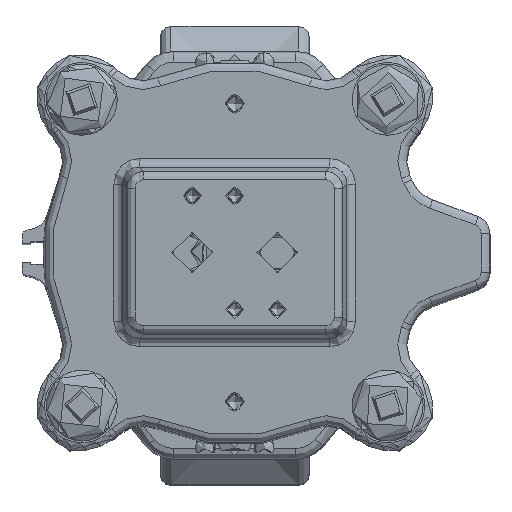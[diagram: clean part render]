
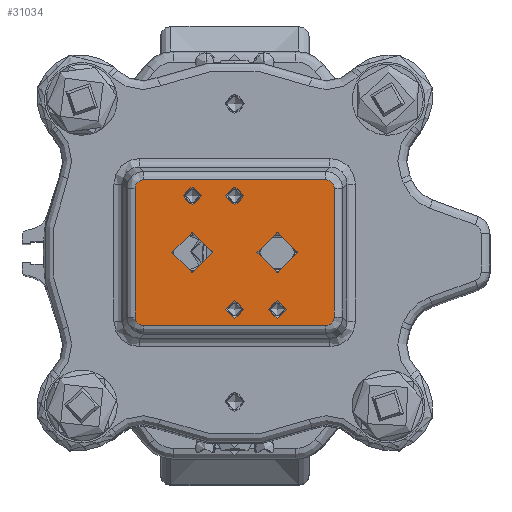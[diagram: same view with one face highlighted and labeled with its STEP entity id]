
A CAD part, top view. The second image highlights one B-rep face of the part: STEP entity #31034.
In plain terms, the highlighted planar face has unit normal (0, 0, 1) by its records, which use the part's own axes.
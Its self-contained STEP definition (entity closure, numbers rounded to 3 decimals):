
#2005=ELLIPSE('',#33929,2.673,2.5);
#2006=ELLIPSE('',#33930,2.673,2.5);
#2007=ELLIPSE('',#33931,2.673,2.5);
#2008=ELLIPSE('',#33932,2.673,2.5);
#2900=FACE_BOUND('',#6243,.T.);
#2901=FACE_BOUND('',#6244,.T.);
#2902=FACE_BOUND('',#6245,.T.);
#2903=FACE_BOUND('',#6246,.T.);
#2904=FACE_BOUND('',#6247,.T.);
#2905=FACE_BOUND('',#6248,.T.);
#3953=FACE_OUTER_BOUND('',#6242,.T.);
#6242=EDGE_LOOP('',(#23579,#23580,#23581,#23582,#23583,#23584,#23585,#23586));
#6243=EDGE_LOOP('',(#23587));
#6244=EDGE_LOOP('',(#23588));
#6245=EDGE_LOOP('',(#23589));
#6246=EDGE_LOOP('',(#23590));
#6247=EDGE_LOOP('',(#23591));
#6248=EDGE_LOOP('',(#23592));
#8596=CIRCLE('',#33801,5.723);
#8598=CIRCLE('',#33804,5.723);
#8688=CIRCLE('',#33927,2.5);
#8689=CIRCLE('',#33933,2.5);
#8690=CIRCLE('',#33934,2.5);
#8691=CIRCLE('',#33935,2.5);
#10583=LINE('',#50429,#12108);
#10584=LINE('',#50433,#12109);
#10585=LINE('',#50437,#12110);
#10586=LINE('',#50440,#12111);
#12108=VECTOR('',#39895,10.);
#12109=VECTOR('',#39898,10.);
#12110=VECTOR('',#39901,10.);
#12111=VECTOR('',#39904,10.);
#14042=VERTEX_POINT('',#49873);
#14043=VERTEX_POINT('',#49877);
#14143=VERTEX_POINT('',#50422);
#14144=VERTEX_POINT('',#50425);
#14145=VERTEX_POINT('',#50426);
#14146=VERTEX_POINT('',#50428);
#14147=VERTEX_POINT('',#50430);
#14148=VERTEX_POINT('',#50432);
#14149=VERTEX_POINT('',#50434);
#14150=VERTEX_POINT('',#50436);
#14151=VERTEX_POINT('',#50438);
#14152=VERTEX_POINT('',#50441);
#14153=VERTEX_POINT('',#50443);
#14154=VERTEX_POINT('',#50445);
#17424=EDGE_CURVE('',#14042,#14042,#8596,.T.);
#17426=EDGE_CURVE('',#14043,#14043,#8598,.T.);
#17556=EDGE_CURVE('',#14143,#14143,#8688,.T.);
#17557=EDGE_CURVE('',#14144,#14145,#2005,.T.);
#17558=EDGE_CURVE('',#14146,#14144,#10583,.T.);
#17559=EDGE_CURVE('',#14147,#14146,#2006,.T.);
#17560=EDGE_CURVE('',#14148,#14147,#10584,.T.);
#17561=EDGE_CURVE('',#14149,#14148,#2007,.T.);
#17562=EDGE_CURVE('',#14150,#14149,#10585,.T.);
#17563=EDGE_CURVE('',#14151,#14150,#2008,.T.);
#17564=EDGE_CURVE('',#14145,#14151,#10586,.T.);
#17565=EDGE_CURVE('',#14152,#14152,#8689,.T.);
#17566=EDGE_CURVE('',#14153,#14153,#8690,.T.);
#17567=EDGE_CURVE('',#14154,#14154,#8691,.T.);
#23579=ORIENTED_EDGE('',*,*,#17557,.F.);
#23580=ORIENTED_EDGE('',*,*,#17558,.F.);
#23581=ORIENTED_EDGE('',*,*,#17559,.F.);
#23582=ORIENTED_EDGE('',*,*,#17560,.F.);
#23583=ORIENTED_EDGE('',*,*,#17561,.F.);
#23584=ORIENTED_EDGE('',*,*,#17562,.F.);
#23585=ORIENTED_EDGE('',*,*,#17563,.F.);
#23586=ORIENTED_EDGE('',*,*,#17564,.F.);
#23587=ORIENTED_EDGE('',*,*,#17424,.T.);
#23588=ORIENTED_EDGE('',*,*,#17426,.T.);
#23589=ORIENTED_EDGE('',*,*,#17565,.F.);
#23590=ORIENTED_EDGE('',*,*,#17566,.F.);
#23591=ORIENTED_EDGE('',*,*,#17567,.F.);
#23592=ORIENTED_EDGE('',*,*,#17556,.F.);
#30006=PLANE('',#33928);
#31034=ADVANCED_FACE('',(#3953,#2900,#2901,#2902,#2903,#2904,#2905),#30006,
 .F.);
#33801=AXIS2_PLACEMENT_3D('',#49874,#39615,#39616);
#33804=AXIS2_PLACEMENT_3D('',#49878,#39621,#39622);
#33927=AXIS2_PLACEMENT_3D('',#50423,#39889,#39890);
#33928=AXIS2_PLACEMENT_3D('',#50424,#39891,#39892);
#33929=AXIS2_PLACEMENT_3D('',#50427,#39893,#39894);
#33930=AXIS2_PLACEMENT_3D('',#50431,#39896,#39897);
#33931=AXIS2_PLACEMENT_3D('',#50435,#39899,#39900);
#33932=AXIS2_PLACEMENT_3D('',#50439,#39902,#39903);
#33933=AXIS2_PLACEMENT_3D('',#50442,#39905,#39906);
#33934=AXIS2_PLACEMENT_3D('',#50444,#39907,#39908);
#33935=AXIS2_PLACEMENT_3D('',#50446,#39909,#39910);
#39615=DIRECTION('center_axis',(0.,0.,
-1.));
#39616=DIRECTION('ref_axis',(1.,0.,0.));
#39621=DIRECTION('center_axis',(0.,0.,
-1.));
#39622=DIRECTION('ref_axis',(1.,0.,0.));
#39889=DIRECTION('center_axis',(0.,0.,
1.));
#39890=DIRECTION('ref_axis',(-1.,0.,0.));
#39891=DIRECTION('center_axis',(0.,0.,
-1.));
#39892=DIRECTION('ref_axis',(-1.,0.,0.));
#39893=DIRECTION('center_axis',(0.,0.,
-1.));
#39894=DIRECTION('ref_axis',(-0.707,-0.707,0.));
#39895=DIRECTION('',(-1.,0.,0.));
#39896=DIRECTION('center_axis',(0.,0.,
-1.));
#39897=DIRECTION('ref_axis',(0.707,-0.707,0.));
#39898=DIRECTION('',(0.,-1.,0.));
#39899=DIRECTION('center_axis',(0.,0.,
-1.));
#39900=DIRECTION('ref_axis',(0.707,0.707,0.));
#39901=DIRECTION('',(1.,0.,0.));
#39902=DIRECTION('center_axis',(0.,0.,
-1.));
#39903=DIRECTION('ref_axis',(-0.707,0.707,0.));
#39904=DIRECTION('',(0.,1.,0.));
#39905=DIRECTION('center_axis',(0.,0.,
1.));
#39906=DIRECTION('ref_axis',(-1.,0.,0.));
#39907=DIRECTION('center_axis',(0.,0.,
1.));
#39908=DIRECTION('ref_axis',(-1.,0.,0.));
#39909=DIRECTION('center_axis',(0.,0.,
1.));
#39910=DIRECTION('ref_axis',(-1.,0.,0.));
#49873=CARTESIAN_POINT('',(-6.278,0.,545.5));
#49874=CARTESIAN_POINT('Origin',(-12.,0.,545.5));
#49877=CARTESIAN_POINT('',(17.723,0.,545.5));
#49878=CARTESIAN_POINT('Origin',(12.,0.,545.5));
#50422=CARTESIAN_POINT('',(-9.5,16.,545.5));
#50423=CARTESIAN_POINT('Origin',(-12.,16.,545.5));
#50424=CARTESIAN_POINT('Origin',(0.,0.,
545.5));
#50425=CARTESIAN_POINT('',(-25.667,-20.582,545.5));
#50426=CARTESIAN_POINT('',(-28.082,-18.167,545.5));
#50427=CARTESIAN_POINT('Origin',(-25.493,-17.993,545.5));
#50428=CARTESIAN_POINT('',(25.667,-20.582,545.5));
#50429=CARTESIAN_POINT('',(-15.,-20.582,545.5));
#50430=CARTESIAN_POINT('',(28.082,-18.167,545.5));
#50431=CARTESIAN_POINT('Origin',(25.493,-17.993,545.5));
#50432=CARTESIAN_POINT('',(28.082,18.167,545.5));
#50433=CARTESIAN_POINT('',(28.082,-11.25,545.5));
#50434=CARTESIAN_POINT('',(25.667,20.582,545.5));
#50435=CARTESIAN_POINT('Origin',(25.493,17.993,545.5));
#50436=CARTESIAN_POINT('',(-25.667,20.582,545.5));
#50437=CARTESIAN_POINT('',(15.,20.582,545.5));
#50438=CARTESIAN_POINT('',(-28.082,18.167,545.5));
#50439=CARTESIAN_POINT('Origin',(-25.493,17.993,545.5));
#50440=CARTESIAN_POINT('',(-28.082,11.25,545.5));
#50441=CARTESIAN_POINT('',(2.5,16.,545.5));
#50442=CARTESIAN_POINT('Origin',(0.,16.,
545.5));
#50443=CARTESIAN_POINT('',(14.5,-16.,545.5));
#50444=CARTESIAN_POINT('Origin',(12.,-16.,545.5));
#50445=CARTESIAN_POINT('',(2.5,-16.,545.5));
#50446=CARTESIAN_POINT('Origin',(0.,-16.,
545.5));
